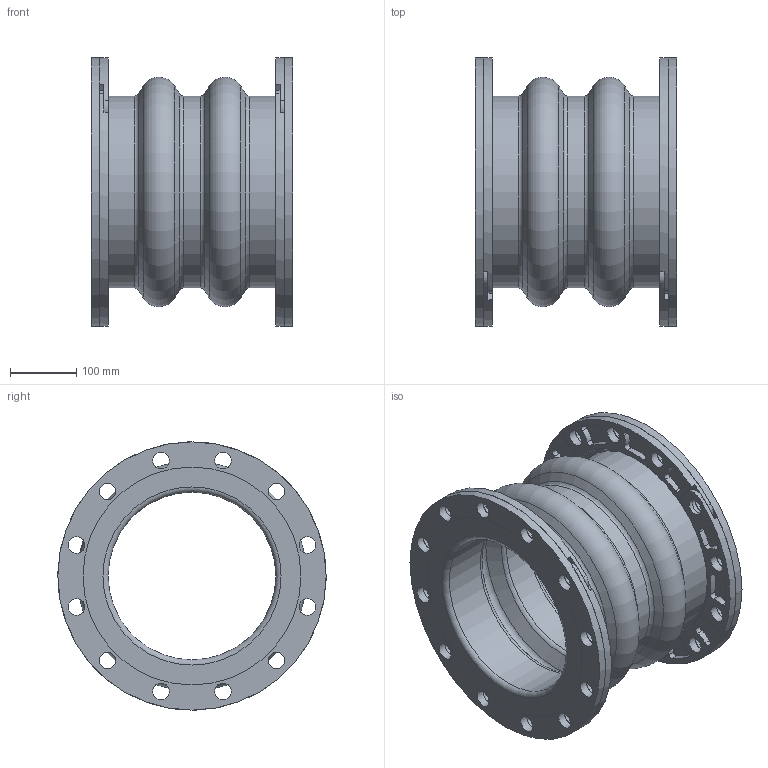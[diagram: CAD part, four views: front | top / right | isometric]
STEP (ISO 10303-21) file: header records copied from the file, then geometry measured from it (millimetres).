
FILE_DESCRIPTION(/* description */ (''),/* implementation_level */ '2;1');
FILE_NAME(/* name */ 'C:\001_Work\Designs\Mercer2014\MQInventor2014\RajR\700 Style\702\STP\702 10IDx12FF.stp',/* time_stamp */ '2016-04-10T12:43:07-04:00',/* author */ ('rramoutar'),/* organization */ ('Mason Industries Inc.'),/* preprocessor_version */ 'ST-DEVELOPER v15.6',/* originating_system */ 'Autodesk Inventor 2015',/* authorisation */ '');
FILE_SCHEMA (('CONFIG_CONTROL_DESIGN'));
Length unit declared in the file: inch
Products named in the file (1): 702 10IDx12FF
Bounding box: 304.8 x 406.4 x 406.4 mm (x, y, z)
Volume: 8366142.3 mm3; surface area: 1267924.4 mm2
Topology: 5 solids, 5 shells, 368 faces, 970 edges, 640 vertices
Faces by surface type: cylinder 268, plane 70, torus 22, cone 8
Full cylindrical faces by diameter (mm): 25.4 x52, 254 x3, 290.512 x3, 406.4 x2
Entity records: 12032 total; most frequent: DIRECTION 2186, CARTESIAN_POINT 2081, ORIENTED_EDGE 1768, AXIS2_PLACEMENT_3D 949, EDGE_CURVE 884, VERTEX_POINT 636, EDGE_LOOP 584, CIRCLE 580
